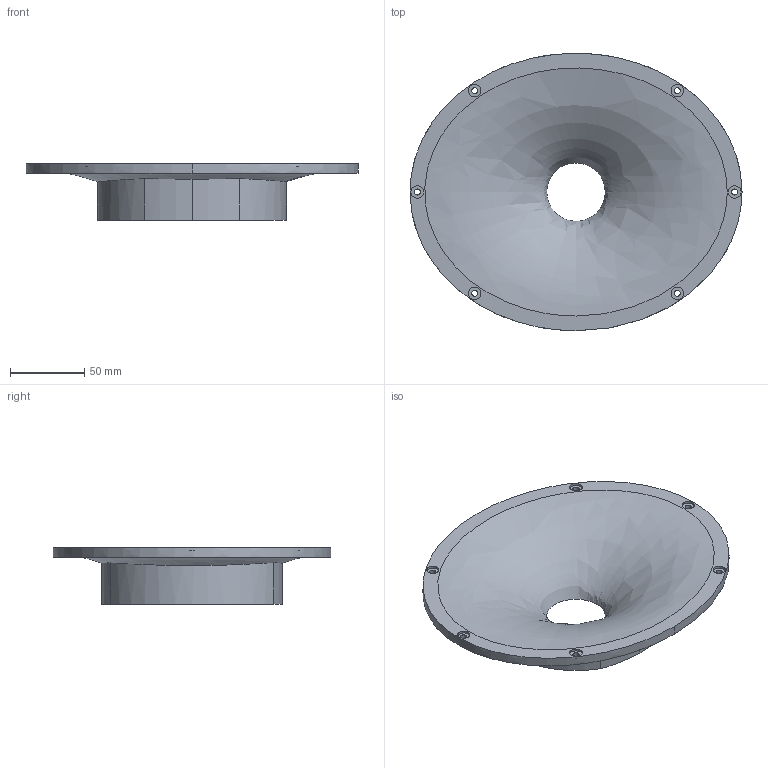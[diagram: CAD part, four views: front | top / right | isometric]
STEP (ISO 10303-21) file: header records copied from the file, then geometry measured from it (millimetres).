
FILE_DESCRIPTION(/* description */ (''),/* implementation_level */ '2;1');
FILE_NAME(/* name */ '8 x 1.5 82 vA v1.step',/* time_stamp */ '2023-07-21T21:47:20-06:00',/* author */ (''),/* organization */ (''),/* preprocessor_version */ 'ST-DEVELOPER v19.2',/* originating_system */ 'Autodesk Translation Framework v12.6.0.85',/* authorisation */ '');
FILE_SCHEMA (('AUTOMOTIVE_DESIGN { 1 0 10303 214 3 1 1 }'));
Length unit declared in the file: inch
Products named in the file (1): 8 x 1.5 82 vA
Bounding box: 223.01 x 186.44 x 37.97 mm (x, y, z)
Volume: 363845.9 mm3; surface area: 83336.5 mm2
Topology: 1 solids, 1 shells, 216 faces, 575 edges, 387 vertices
Faces by surface type: bspline 109, plane 85, cylinder 19, cone 3
Full cylindrical faces by diameter (mm): 3.302 x2, 4.064 x6, 8.382 x6
Entity records: 11084 total; most frequent: CARTESIAN_POINT 6405, ORIENTED_EDGE 1150, DIRECTION 594, EDGE_CURVE 575, VERTEX_POINT 387, LINE 294, VECTOR 294, EDGE_LOOP 256
